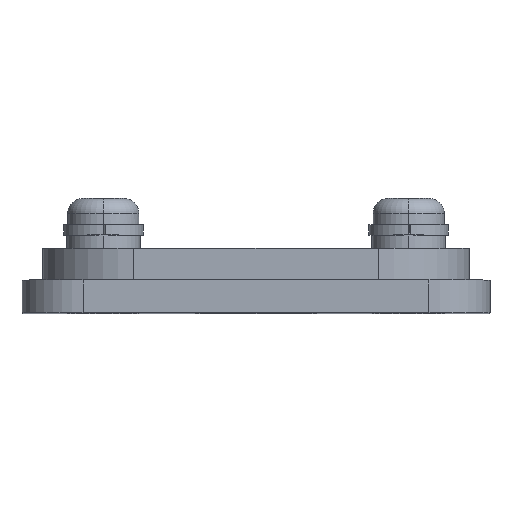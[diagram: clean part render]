
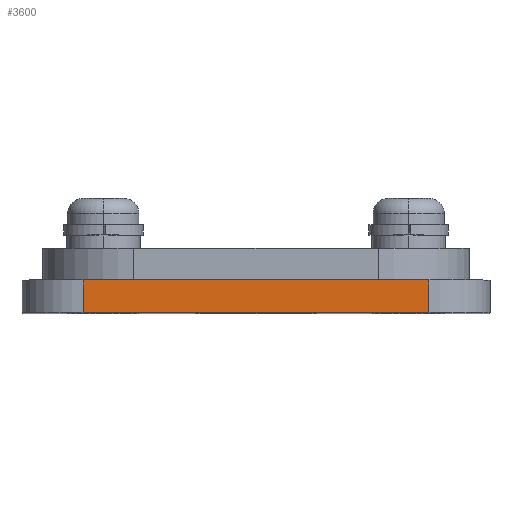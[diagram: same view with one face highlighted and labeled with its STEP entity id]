
A CAD part, top view. The second image highlights one B-rep face of the part: STEP entity #3600.
In plain terms, the highlighted planar face has unit normal (0, 0, 1).
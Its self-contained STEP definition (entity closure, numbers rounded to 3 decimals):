
#22 = VERTEX_POINT ( 'NONE', #142 ) ;
#142 = CARTESIAN_POINT ( 'NONE',  ( -17., 3.2, 51. ) ) ;
#219 = CARTESIAN_POINT ( 'NONE',  ( 17., 3.2, 51. ) ) ;
#395 = ORIENTED_EDGE ( 'NONE', *, *, #1844, .F. ) ;
#420 = VERTEX_POINT ( 'NONE', #2995 ) ;
#526 = LINE ( 'NONE', #1305, #1956 ) ;
#578 = VERTEX_POINT ( 'NONE', #3064 ) ;
#838 = EDGE_CURVE ( 'NONE', #22, #578, #1729, .T. ) ;
#933 = DIRECTION ( 'NONE',  ( 1., 0., 0. ) ) ;
#975 = DIRECTION ( 'NONE',  ( -1., 0., 0. ) ) ;
#1115 = LINE ( 'NONE', #219, #2420 ) ;
#1188 = CARTESIAN_POINT ( 'NONE',  ( -17., 3.2, 51. ) ) ;
#1189 = ORIENTED_EDGE ( 'NONE', *, *, #3548, .T. ) ;
#1194 = VECTOR ( 'NONE', #933, 1000. ) ;
#1269 = CARTESIAN_POINT ( 'NONE',  ( -17., 3.2, 51. ) ) ;
#1305 = CARTESIAN_POINT ( 'NONE',  ( -17., 0., 51. ) ) ;
#1487 = EDGE_LOOP ( 'NONE', ( #2806, #395, #3330, #1189 ) ) ;
#1539 = CARTESIAN_POINT ( 'NONE',  ( -17., 3.2, 51. ) ) ;
#1729 = LINE ( 'NONE', #1539, #1194 ) ;
#1841 = FACE_OUTER_BOUND ( 'NONE', #1487, .T. ) ;
#1844 = EDGE_CURVE ( 'NONE', #578, #420, #1115, .T. ) ;
#1956 = VECTOR ( 'NONE', #2952, 1000. ) ;
#2239 = CARTESIAN_POINT ( 'NONE',  ( -17., 0., 51. ) ) ;
#2343 = EDGE_CURVE ( 'NONE', #2576, #420, #526, .T. ) ;
#2420 = VECTOR ( 'NONE', #3097, 1000. ) ;
#2568 = DIRECTION ( 'NONE',  ( 0., -1., 0. ) ) ;
#2576 = VERTEX_POINT ( 'NONE', #2239 ) ;
#2806 = ORIENTED_EDGE ( 'NONE', *, *, #2343, .T. ) ;
#2918 = PLANE ( 'NONE',  #3358 ) ;
#2952 = DIRECTION ( 'NONE',  ( 1., 0., 0. ) ) ;
#2995 = CARTESIAN_POINT ( 'NONE',  ( 17., 0., 51. ) ) ;
#3064 = CARTESIAN_POINT ( 'NONE',  ( 17., 3.2, 51. ) ) ;
#3097 = DIRECTION ( 'NONE',  ( 0., -1., 0. ) ) ;
#3162 = LINE ( 'NONE', #1188, #3660 ) ;
#3231 = DIRECTION ( 'NONE',  ( 0., 0., -1. ) ) ;
#3330 = ORIENTED_EDGE ( 'NONE', *, *, #838, .F. ) ;
#3358 = AXIS2_PLACEMENT_3D ( 'NONE', #1269, #3231, #975 ) ;
#3548 = EDGE_CURVE ( 'NONE', #22, #2576, #3162, .T. ) ;
#3600 = ADVANCED_FACE ( 'NONE', ( #1841 ), #2918, .F. ) ;
#3660 = VECTOR ( 'NONE', #2568, 1000. ) ;
